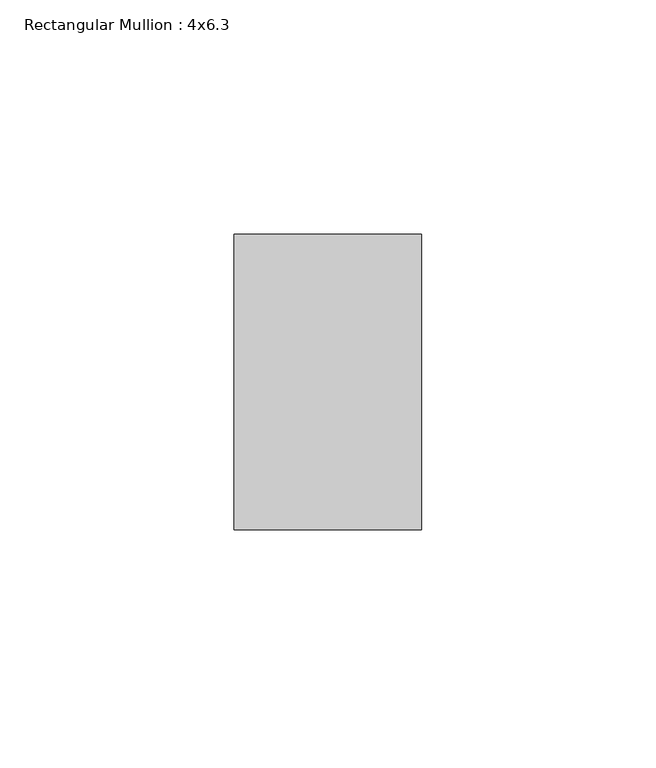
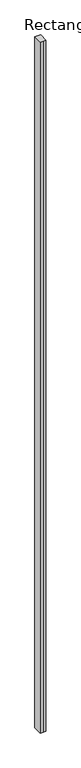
"""IFC4 building model written with IfcOpenShell, lengths in millimetres: member geometry, Rectangular Mullion : 4x6.3."""

from ifc_helpers import new_model, si_unit, frame, origin, place, context, project, spatial, polyline, outline, extrude, source, transform, mapped, element, save


def rectangular_mullion_4x6_3_866be609(model_context):
    return source(origin(), model_context, "Body", "SweptSolid", [
        extrude(outline(polyline([(-20.0, 20.0), (-20.0, 83.0), (20.0, 83.0), (20.0, 20.0), (0.0, 20.0), (-20.0, 20.0)])), frame((0.0, 0.0, -5060.193691), z_axis=(0.0, 0.0, 1.0), x_axis=(1.0, 0.0, 0.0)), (0.0, 0.0, 1.0), 5060.193691),
    ])


if __name__ == "__main__":
    model = new_model("IFC4")
    model_context = context("Model", 3, world=origin())
    ifc_project = project(units=[si_unit("LENGTHUNIT", "METRE", prefix="MILLI")], contexts=[model_context])
    site = spatial("IfcSite", under=ifc_project)
    building = spatial("IfcBuilding", under=site)
    placement = place(None, origin())
    rectangular_mullion_4x6_3_shape = rectangular_mullion_4x6_3_866be609(model_context)
    element("IfcMember", 1, ObjectType="Rectangular Mullion : 4x6.3", at=placement, inside=building, context=model_context, shape_type="MappedRepresentation", body=[
        mapped(rectangular_mullion_4x6_3_shape, transform((0.0, 0.0, 0.0), x_axis=(1.0, 0.0, 0.0), y_axis=(0.0, 1.0, 0.0), z_axis=(0.0, 0.0, 1.0))),
    ])
    save(model, "model.ifc")
